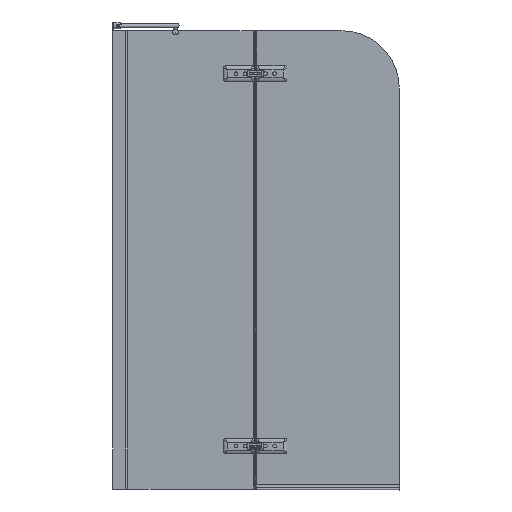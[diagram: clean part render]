
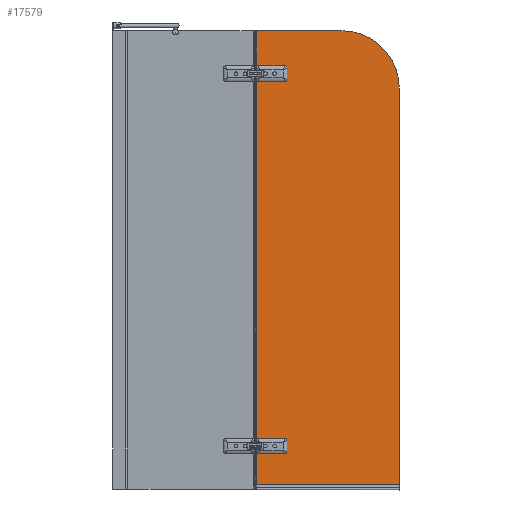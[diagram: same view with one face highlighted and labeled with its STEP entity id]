
A CAD part, left-side view. The second image highlights one B-rep face of the part: STEP entity #17579.
In plain terms, the highlighted planar face has unit normal (-1, 0, 0).
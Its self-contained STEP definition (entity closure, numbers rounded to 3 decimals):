
#314=FACE_BOUND($,#2652,.T.);
#315=FACE_BOUND($,#2653,.T.);
#316=FACE_BOUND($,#2654,.T.);
#2652=EDGE_LOOP($,(#14861));
#2653=EDGE_LOOP($,(#14862));
#2654=EDGE_LOOP($,(#14863,#14864,#14865,#14866,#14867,#14868,#14869,#14870,
#14871,#14872,#14873,#14874,#14875,#14876,#14877,#14878,#14879));
#3240=LINE($,#40115,#4724);
#3252=LINE($,#40224,#4736);
#4043=LINE($,#43742,#5527);
#4060=LINE($,#44015,#5544);
#4129=LINE($,#44237,#5613);
#4146=LINE($,#44284,#5630);
#4148=LINE($,#44288,#5632);
#4149=LINE($,#44291,#5633);
#4150=LINE($,#44296,#5634);
#4151=LINE($,#44299,#5635);
#4152=LINE($,#44303,#5636);
#4153=LINE($,#44306,#5637);
#4724=VECTOR($,#20941,1262.);
#4736=VECTOR($,#20971,116.4);
#5527=VECTOR($,#23134,131.);
#5544=VECTOR($,#23209,298.249);
#5613=VECTOR($,#23394,498.249);
#5630=VECTOR($,#23439,30.249);
#5632=VECTOR($,#23443,30.249);
#5633=VECTOR($,#23446,1385.4);
#5634=VECTOR($,#23451,18.);
#5635=VECTOR($,#23454,30.249);
#5636=VECTOR($,#23457,18.);
#5637=VECTOR($,#23460,30.249);
#5961=CIRCLE($,#18099,6.5);
#6228=CIRCLE($,#18794,6.5);
#6349=CIRCLE($,#19095,200.);
#6350=CIRCLE($,#19096,10.);
#6351=CIRCLE($,#19097,10.);
#6352=CIRCLE($,#19098,10.);
#6353=CIRCLE($,#19099,10.);
#6855=VERTEX_POINT($,#39165);
#7041=VERTEX_POINT($,#40112);
#7042=VERTEX_POINT($,#40114);
#7064=VERTEX_POINT($,#40212);
#7065=VERTEX_POINT($,#40223);
#7653=VERTEX_POINT($,#42796);
#7837=VERTEX_POINT($,#43739);
#7838=VERTEX_POINT($,#43741);
#7869=VERTEX_POINT($,#44014);
#7934=VERTEX_POINT($,#44235);
#7940=VERTEX_POINT($,#44282);
#7941=VERTEX_POINT($,#44286);
#7942=VERTEX_POINT($,#44290);
#7943=VERTEX_POINT($,#44293);
#7944=VERTEX_POINT($,#44295);
#7945=VERTEX_POINT($,#44297);
#7946=VERTEX_POINT($,#44300);
#7947=VERTEX_POINT($,#44302);
#7948=VERTEX_POINT($,#44304);
#8657=EDGE_CURVE($,#6855,#6855,#5961,.T.);
#8953=EDGE_CURVE($,#7041,#7042,#3240,.T.);
#8980=EDGE_CURVE($,#7064,#7065,#3252,.T.);
#9867=EDGE_CURVE($,#7653,#7653,#6228,.T.);
#10160=EDGE_CURVE($,#7837,#7838,#4043,.T.);
#10203=EDGE_CURVE($,#7838,#7869,#4060,.T.);
#10302=EDGE_CURVE($,#7934,#7064,#4129,.T.);
#10323=EDGE_CURVE($,#7837,#7940,#4146,.T.);
#10325=EDGE_CURVE($,#7041,#7941,#4148,.T.);
#10326=EDGE_CURVE($,#7934,#7942,#4149,.T.);
#10327=EDGE_CURVE($,#7869,#7942,#6349,.T.);
#10328=EDGE_CURVE($,#7943,#7940,#6350,.T.);
#10329=EDGE_CURVE($,#7943,#7944,#4150,.T.);
#10330=EDGE_CURVE($,#7945,#7944,#6351,.T.);
#10331=EDGE_CURVE($,#7945,#7042,#4151,.T.);
#10332=EDGE_CURVE($,#7946,#7941,#6352,.T.);
#10333=EDGE_CURVE($,#7946,#7947,#4152,.T.);
#10334=EDGE_CURVE($,#7948,#7947,#6353,.T.);
#10335=EDGE_CURVE($,#7948,#7065,#4153,.T.);
#14861=ORIENTED_EDGE($,*,*,#8657,.T.);
#14862=ORIENTED_EDGE($,*,*,#9867,.T.);
#14863=ORIENTED_EDGE($,*,*,#10302,.F.);
#14864=ORIENTED_EDGE($,*,*,#10326,.T.);
#14865=ORIENTED_EDGE($,*,*,#10327,.F.);
#14866=ORIENTED_EDGE($,*,*,#10203,.F.);
#14867=ORIENTED_EDGE($,*,*,#10160,.F.);
#14868=ORIENTED_EDGE($,*,*,#10323,.T.);
#14869=ORIENTED_EDGE($,*,*,#10328,.F.);
#14870=ORIENTED_EDGE($,*,*,#10329,.T.);
#14871=ORIENTED_EDGE($,*,*,#10330,.F.);
#14872=ORIENTED_EDGE($,*,*,#10331,.T.);
#14873=ORIENTED_EDGE($,*,*,#8953,.F.);
#14874=ORIENTED_EDGE($,*,*,#10325,.T.);
#14875=ORIENTED_EDGE($,*,*,#10332,.F.);
#14876=ORIENTED_EDGE($,*,*,#10333,.T.);
#14877=ORIENTED_EDGE($,*,*,#10334,.F.);
#14878=ORIENTED_EDGE($,*,*,#10335,.T.);
#14879=ORIENTED_EDGE($,*,*,#8980,.F.);
#15881=PLANE($,#19094);
#17579=ADVANCED_FACE($,(#314,#315,#316),#15881,.T.);
#18099=AXIS2_PLACEMENT_3D($,#39166,#20361,#20362);
#18794=AXIS2_PLACEMENT_3D($,#42797,#22556,#22557);
#19094=AXIS2_PLACEMENT_3D($,#44289,#23444,#23445);
#19095=AXIS2_PLACEMENT_3D($,#44292,#23447,#23448);
#19096=AXIS2_PLACEMENT_3D($,#44294,#23449,#23450);
#19097=AXIS2_PLACEMENT_3D($,#44298,#23452,#23453);
#19098=AXIS2_PLACEMENT_3D($,#44301,#23455,#23456);
#19099=AXIS2_PLACEMENT_3D($,#44305,#23458,#23459);
#20361=DIRECTION('center_axis',(1.,0.,0.));
#20362=DIRECTION('ref_axis',(0.,1.,0.));
#20941=DIRECTION($,(0.,0.,1.));
#20971=DIRECTION($,(0.,0.,1.));
#22556=DIRECTION('center_axis',(1.,0.,0.));
#22557=DIRECTION('ref_axis',(0.,1.,0.));
#23134=DIRECTION($,(0.,0.,1.));
#23209=DIRECTION($,(0.,-1.,0.));
#23394=DIRECTION($,(0.,1.,0.));
#23439=DIRECTION($,(0.,-1.,0.));
#23443=DIRECTION($,(0.,-1.,0.));
#23444=DIRECTION('center_axis',(-1.,0.,0.));
#23445=DIRECTION('ref_axis',(0.,-1.,0.));
#23446=DIRECTION($,(0.,0.,1.));
#23447=DIRECTION('center_axis',(1.,0.,0.));
#23448=DIRECTION('ref_axis',(0.,-0.707,0.707));
#23449=DIRECTION('center_axis',(-1.,0.,0.));
#23450=DIRECTION('ref_axis',(0.,-0.707,0.707));
#23451=DIRECTION($,(0.,0.,-1.));
#23452=DIRECTION('center_axis',(-1.,0.,0.));
#23453=DIRECTION('ref_axis',(0.,-0.707,-0.707));
#23454=DIRECTION($,(0.,1.,0.));
#23455=DIRECTION('center_axis',(-1.,0.,0.));
#23456=DIRECTION('ref_axis',(0.,-0.707,0.707));
#23457=DIRECTION($,(0.,0.,-1.));
#23458=DIRECTION('center_axis',(-1.,0.,0.));
#23459=DIRECTION('ref_axis',(0.,-0.707,-0.707));
#23460=DIRECTION($,(0.,1.,0.));
#39165=CARTESIAN_POINT('',(1215.733,774.456,175.944));
#39166=CARTESIAN_POINT('Origin',(1215.733,780.956,175.944));
#40112=CARTESIAN_POINT('',(1215.733,844.205,194.944));
#40114=CARTESIAN_POINT('',(1215.733,844.205,1456.944));
#40115=CARTESIAN_POINT($,(1215.733,844.205,185.944));
#40212=CARTESIAN_POINT('',(1215.733,844.205,40.544));
#40223=CARTESIAN_POINT('',(1215.733,844.205,156.944));
#40224=CARTESIAN_POINT($,(1215.733,844.205,25.944));
#42796=CARTESIAN_POINT('',(1215.733,774.456,1475.944));
#42797=CARTESIAN_POINT('Origin',(1215.733,780.956,1475.944));
#43739=CARTESIAN_POINT('',(1215.733,844.205,1494.944));
#43741=CARTESIAN_POINT('',(1215.733,844.205,1625.944));
#43742=CARTESIAN_POINT($,(1215.733,844.205,1625.944));
#44014=CARTESIAN_POINT('',(1215.733,545.956,1625.944));
#44015=CARTESIAN_POINT($,(1215.733,845.956,1625.944));
#44235=CARTESIAN_POINT('',(1215.733,345.956,40.544));
#44237=CARTESIAN_POINT($,(1215.733,345.956,40.544));
#44282=CARTESIAN_POINT('',(1215.733,813.956,1494.944));
#44284=CARTESIAN_POINT($,(1215.733,845.956,1494.944));
#44286=CARTESIAN_POINT('',(1215.733,813.956,194.944));
#44288=CARTESIAN_POINT($,(1215.733,845.956,194.944));
#44289=CARTESIAN_POINT('Origin',(1215.733,845.956,35.944));
#44290=CARTESIAN_POINT('',(1215.733,345.956,1425.944));
#44291=CARTESIAN_POINT($,(1215.733,345.956,35.944));
#44292=CARTESIAN_POINT('Origin',(1215.733,545.956,1425.944));
#44293=CARTESIAN_POINT('',(1215.733,803.956,1484.944));
#44294=CARTESIAN_POINT('Origin',(1215.733,813.956,1484.944));
#44295=CARTESIAN_POINT('',(1215.733,803.956,1466.944));
#44296=CARTESIAN_POINT($,(1215.733,803.956,765.444));
#44297=CARTESIAN_POINT('',(1215.733,813.956,1456.944));
#44298=CARTESIAN_POINT('Origin',(1215.733,813.956,1466.944));
#44299=CARTESIAN_POINT($,(1215.733,824.956,1456.944));
#44300=CARTESIAN_POINT('',(1215.733,803.956,184.944));
#44301=CARTESIAN_POINT('Origin',(1215.733,813.956,184.944));
#44302=CARTESIAN_POINT('',(1215.733,803.956,166.944));
#44303=CARTESIAN_POINT($,(1215.733,803.956,115.444));
#44304=CARTESIAN_POINT('',(1215.733,813.956,156.944));
#44305=CARTESIAN_POINT('Origin',(1215.733,813.956,166.944));
#44306=CARTESIAN_POINT($,(1215.733,824.956,156.944));
